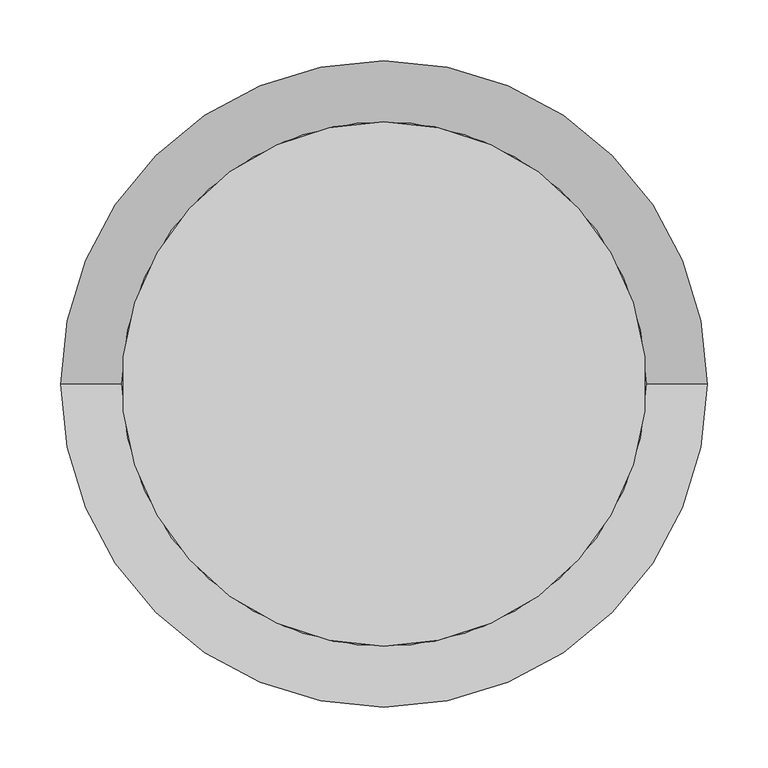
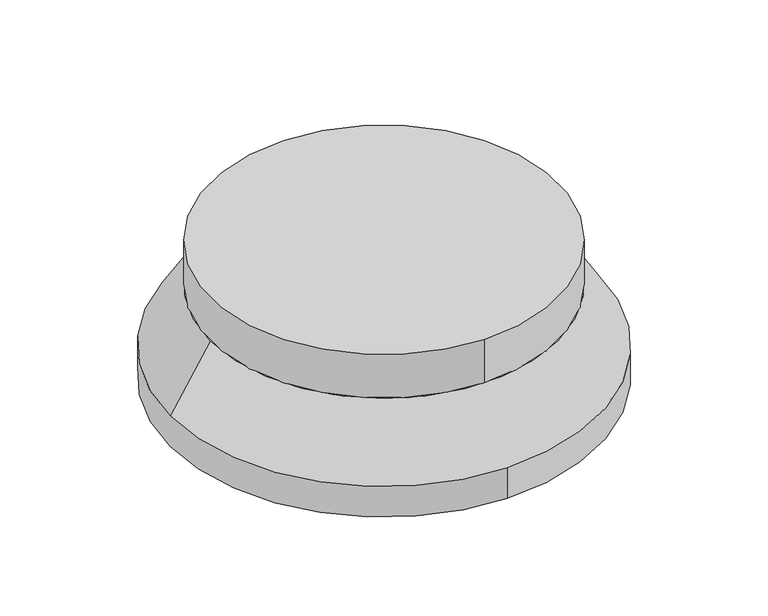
"""IFC4 building model written with IfcOpenShell, lengths in millimetres: valve geometry, Pipelife - Studnia PRO - Stożek betonowy : Stożek beton z pokr bet 200."""

from ifc_helpers import new_model, si_unit, point, frame, origin, origin_2d, place, context, project, spatial, polyline, circle_curve, trimmed, segment, composite_curve, outline, extrude, source, transform, mapped, element, save
from ifc_brep_helpers import plane_surface, cylinder_surface, revolved_surface, advanced_brep


def valve_e50346d1(model_context):
    return source(origin(), model_context, "Body", "SolidModel", [
        advanced_brep(
        [(0.0, 265.0, 0.0), (0.0, -265.0, 0.0), (0.0, 110.0, 0.0), (0.0, -110.0, 0.0), (0.0, -265.0, 40.0), (-265.0, 0.0, 40.0), (0.0, 265.0, 40.0), (265.0, 0.0, 40.0), (0.0, 110.0, 60.0), (0.0, -110.0, 60.0), (215.0, 0.0, 121.0), (-215.0, 0.0, 121.0)],
        [
            (0, 1, circle_curve(frame((0.0, 0.0, 0.0), z_axis=(0.0, 0.0, -1.0), x_axis=(0.0, -1.0, 0.0)), 265.0)),
            (1, 0, circle_curve(frame((0.0, 0.0, 0.0), z_axis=(0.0, 0.0, -1.0), x_axis=(0.0, -1.0, 0.0)), 265.0)),
            (2, 3, circle_curve(frame((0.0, 0.0, 0.0), z_axis=(0.0, 0.0, 1.0), x_axis=(0.0, -1.0, 0.0)), 110.0)),
            (3, 2, circle_curve(frame((0.0, 0.0, 0.0), z_axis=(0.0, 0.0, 1.0), x_axis=(0.0, -1.0, 0.0)), 110.0)),
            (1, 4),
            (4, 5, circle_curve(frame((0.0, 0.0, 40.0), z_axis=(0.0, 0.0, -1.0), x_axis=(0.0, -1.0, 0.0)), 265.0)),
            (5, 6, circle_curve(frame((0.0, 0.0, 40.0), z_axis=(0.0, 0.0, -1.0), x_axis=(0.0, -1.0, 0.0)), 265.0)),
            (6, 0),
            (6, 7, circle_curve(frame((0.0, 0.0, 40.0), z_axis=(0.0, 0.0, -1.0), x_axis=(0.0, -1.0, 0.0)), 265.0)),
            (7, 4, circle_curve(frame((0.0, 0.0, 40.0), z_axis=(0.0, 0.0, -1.0), x_axis=(0.0, -1.0, 0.0)), 265.0)),
            (8, 9, circle_curve(frame((0.0, 0.0, 60.0), z_axis=(0.0, 0.0, -1.0), x_axis=(0.0, -1.0, 0.0)), 110.0)),
            (9, 8, circle_curve(frame((0.0, 0.0, 60.0), z_axis=(0.0, 0.0, -1.0), x_axis=(0.0, -1.0, 0.0)), 110.0)),
            (9, 3),
            (2, 8),
            (10, 11, circle_curve(frame((0.0, 0.0, 121.0), z_axis=(0.0, 0.0, 1.0), x_axis=(1.0, 0.0, 0.0)), 215.0)),
            (11, 10, circle_curve(frame((0.0, 0.0, 121.0), z_axis=(0.0, 0.0, 1.0), x_axis=(-1.0, 0.0, 0.0)), 215.0)),
            (10, 7),
            (5, 11),
        ],
        [
            plane_surface(frame((0.0, 0.0, 0.0), z_axis=(0.0, 0.0, -1.0), x_axis=(0.0, -1.0, 0.0))),
            cylinder_surface(frame((0.0, 0.0, 40.0), z_axis=(0.0, 0.0, 1.0), x_axis=(0.0, -1.0, 0.0)), 265.0),
            plane_surface(frame((0.0, 0.0, 60.0), z_axis=(0.0, 0.0, -1.0), x_axis=(0.0, -1.0, 0.0))),
            revolved_surface(polyline([(0.0, -110.0, 60.0), (0.0, -110.0, 0.0)]), (0.0, 0.0, 60.0), (0.0, 0.0, 1.0)),
            plane_surface(frame((0.0, 0.0, 121.0), z_axis=(0.0, 0.0, 1.0), x_axis=(0.0, 1.0, 0.0))),
            revolved_surface(polyline([(215.0, 0.0, 121.0), (265.0, 0.0, 40.0)]), (0.0, 0.0, 469.3), (0.0, 0.0, -1.0)),
            revolved_surface(polyline([(-215.0, 0.0, 121.0), (-265.0, 0.0, 40.0)]), (0.0, 0.0, 469.3), (0.0, 0.0, -1.0)),
        ],
        [
            (0, [[1, 2], [3, 4]]),
            (1, [[-2, 5, 6, 7, 8]]),
            (1, [[-1, -8, 9, 10, -5]]),
            (2, [[11, 12]]),
            (3, [[-12, 13, -3, 14]]),
            (3, [[-11, -14, -4, -13]]),
            (4, [[15, 16]]),
            (5, [[-15, 17, -9, -7, 18]]),
            (6, [[-16, -18, -6, -10, -17]]),
        ],
    ),
        extrude(outline(composite_curve([segment(trimmed(circle_curve(origin_2d(), 215.0), [point((0.0, 215.0))], [point((0.0, -215.0))], False, "CARTESIAN"), True, "CONTINUOUS"), segment(trimmed(circle_curve(origin_2d(), 215.0), [point((0.0, -215.0))], [point((0.0, 215.0))], False, "CARTESIAN"), True, "CONTINUOUS")], self_intersect=False)), frame((0.0, 0.0, 121.0), z_axis=(0.0, 0.0, 1.0), x_axis=(1.0, 0.0, 0.0)), (0.0, 0.0, 1.0), 57.0),
    ])


if __name__ == "__main__":
    model = new_model("IFC4")
    model_context = context("Model", 3, world=origin())
    ifc_project = project(units=[si_unit("LENGTHUNIT", "METRE", prefix="MILLI")], contexts=[model_context])
    site = spatial("IfcSite", under=ifc_project)
    building = spatial("IfcBuilding", under=site)
    placement = place(None, origin())
    valve_shape = valve_e50346d1(model_context)
    element("IfcValve", 1, ObjectType="Pipelife - Studnia PRO - Stożek betonowy : Stożek beton z pokr bet 200", at=placement, inside=building, context=model_context, shape_type="MappedRepresentation", body=[
        mapped(valve_shape, transform((0.0, 0.0, 0.0), x_axis=(1.0, 0.0, 0.0), y_axis=(0.0, 1.0, 0.0), z_axis=(0.0, 0.0, 1.0))),
    ])
    save(model, "model.ifc")
